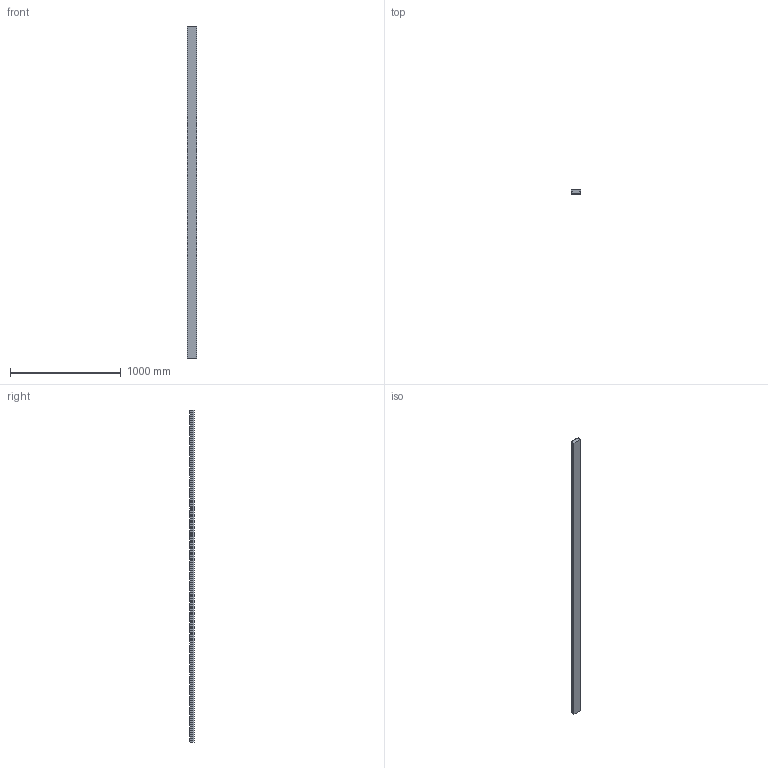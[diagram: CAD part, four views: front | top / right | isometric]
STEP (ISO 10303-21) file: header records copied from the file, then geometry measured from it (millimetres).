
FILE_DESCRIPTION (( 'STEP AP214' ), '1' );
FILE_NAME ('JB-58030.step', '2023-12-26T01:21:47', ( 'catia' ), ( 'HP Inc.' ), 'SwSTEP 2.0', 'SolidWorks 2021', '' );
FILE_SCHEMA (( 'AUTOMOTIVE_DESIGN' ));
Length unit declared in the file: millimetre
Products named in the file (1): JB-58030
Bounding box: 88 x 39 x 3000 mm (x, y, z)
Volume: 9592167.3 mm3; surface area: 843767.9 mm2
Topology: 1 solids, 1 shells, 462 faces, 930 edges, 620 vertices
Faces by surface type: plane 312, cylinder 150
Entity records: 12088 total; most frequent: DIRECTION 2156, CARTESIAN_POINT 2013, ORIENTED_EDGE 1860, EDGE_CURVE 930, AXIS2_PLACEMENT_3D 763, LINE 630, VECTOR 630, VERTEX_POINT 620
